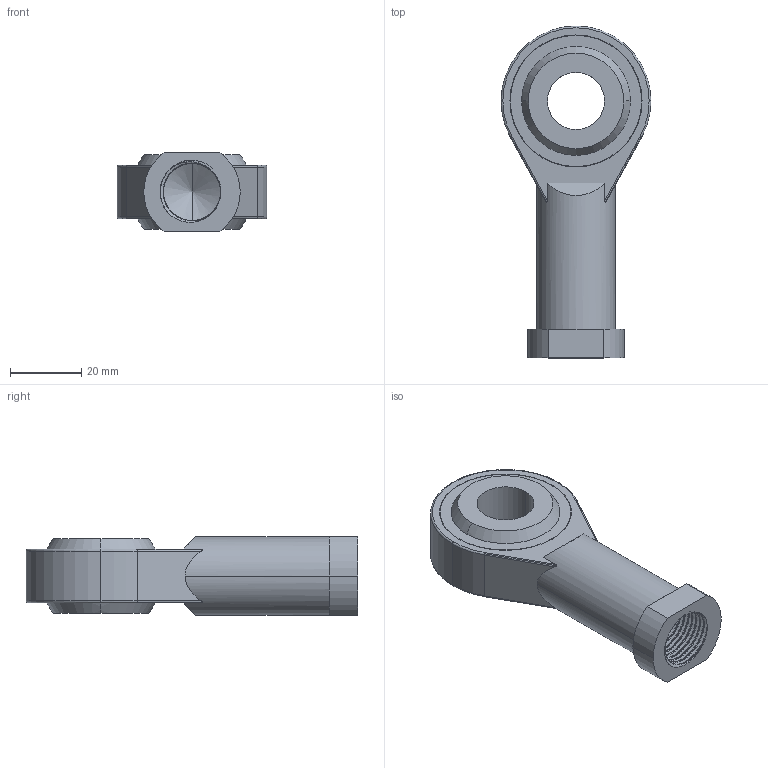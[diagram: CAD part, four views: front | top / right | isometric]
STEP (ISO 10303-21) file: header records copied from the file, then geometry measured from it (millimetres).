
FILE_DESCRIPTION((''),'2;1');
FILE_NAME('TST63.stp','2008-03-02T07:27:06',('BP'),('AZ PNEUMATICA S.r.l.'),'Mechanical Desktop 2006','Mechanical Desktop 2006','Via Marco Biagi 6, 20020 Misinto (MI) Italia, azpneu@tin.it');
FILE_SCHEMA(('CONFIG_CONTROL_DESIGN'));
Length unit declared in the file: millimetre
Products named in the file (2): PREDNJA USKA; USKA TELO
Assembly tree (1 placements, depth 2):
  PREDNJA USKA
    USKA TELO
Bounding box: 42 x 93 x 22 mm (x, y, z)
Volume: 33858.3 mm3; surface area: 13052.5 mm2
Topology: 1 solids, 1 shells, 98 faces, 264 edges, 173 vertices
Faces by surface type: cylinder 63, plane 18, torus 6, bspline 5, sphere 4, cone 2
Entity records: 13656 total; most frequent: CARTESIAN_POINT 11199, ORIENTED_EDGE 524, DIRECTION 449, EDGE_CURVE 262, AXIS2_PLACEMENT_3D 181, VERTEX_POINT 173, EDGE_LOOP 107, FACE_OUTER_BOUND 98
